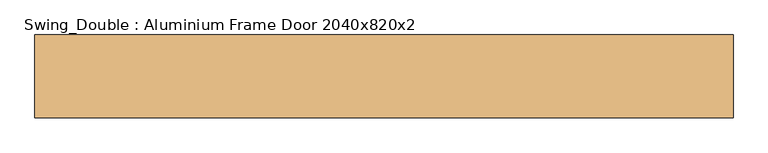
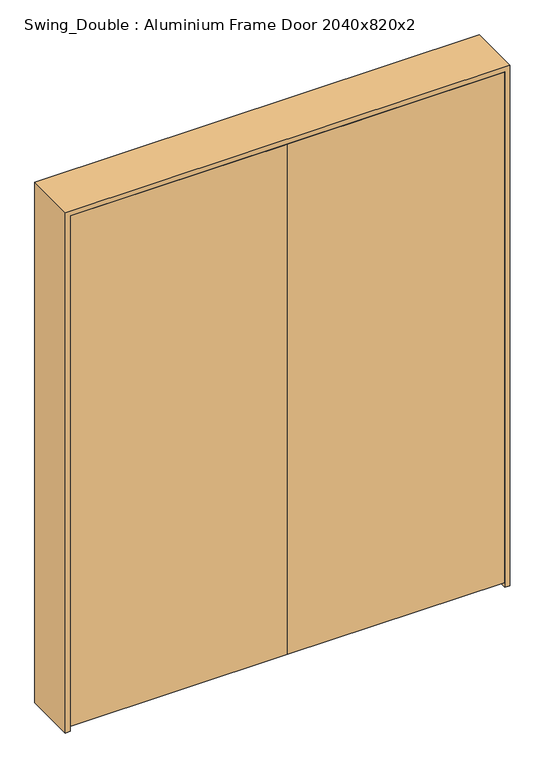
"""IFC4 building model written with IfcOpenShell, lengths in millimetres: door geometry, Swing_Double : Aluminium Frame Door 2040x820x2."""

from ifc_helpers import new_model, si_unit, frame, origin, place, context, project, spatial, polyline, outline, extrude, faceted_brep, source, transform, mapped, element, save


def swing_double_aluminium_frame_door_2040x820x2_ba6f0609(model_context):
    return source(origin(), model_context, "Body", "SolidModel", [
        extrude(outline(polyline([(-211.5, -100.0), (-211.5, -60.0), (608.5, -60.0), (608.5, -100.0), (-211.5, -100.0)])), frame((0.0, 0.0, 20.0), z_axis=(0.0, 0.0, 1.0), x_axis=(1.0, 0.0, 0.0)), (0.0, 0.0, 1.0), 2040.0),
        extrude(outline(polyline([(-211.5, -100.0), (-1031.5, -100.0), (-1031.5, -60.0), (-211.5, -60.0), (-211.5, -100.0)])), frame((0.0, 0.0, 20.0), z_axis=(0.0, 0.0, 1.0), x_axis=(1.0, 0.0, 0.0)), (0.0, 0.0, 1.0), 2040.0),
        faceted_brep([(629.5, 100.0, 0.0), (629.5, -100.0, 0.0), (610.5, -100.0, 0.0), (610.5, -58.0, 0.0), (590.5, -58.0, 0.0), (590.5, 100.0, 0.0), (590.5, 100.0, 2042.0), (-1013.5, 100.0, 2042.0), (-1013.5, 100.0, 0.0), (-1052.5, 100.0, 0.0), (-1052.5, 100.0, 2081.0), (629.5, 100.0, 2081.0), (590.5, -58.0, 2042.0), (610.5, -58.0, 2062.0), (-1033.5, -58.0, 2062.0), (-1033.5, -58.0, 0.0), (-1013.5, -58.0, 0.0), (-1013.5, -58.0, 2042.0), (610.5, -100.0, 2062.0), (629.5, -100.0, 2081.0), (-1052.5, -100.0, 2081.0), (-1052.5, -100.0, 0.0), (-1033.5, -100.0, 0.0), (-1033.5, -100.0, 2062.0)], [[[0, 1, 2, 3, 4, 5]], [[5, 6, 7, 8, 9, 10, 11, 0]], [[4, 12, 6, 5]], [[3, 13, 14, 15, 16, 17, 12, 4]], [[2, 18, 13, 3]], [[1, 19, 20, 21, 22, 23, 18, 2]], [[0, 11, 19, 1]], [[23, 22, 15, 14]], [[9, 8, 16, 15, 22, 21]], [[10, 9, 21, 20]], [[17, 16, 8, 7]], [[11, 10, 20, 19]], [[18, 23, 14, 13]], [[12, 17, 7, 6]]]),
    ])


if __name__ == "__main__":
    model = new_model("IFC4")
    model_context = context("Model", 3, world=origin())
    ifc_project = project(units=[si_unit("LENGTHUNIT", "METRE", prefix="MILLI")], contexts=[model_context])
    site = spatial("IfcSite", under=ifc_project)
    building = spatial("IfcBuilding", under=site)
    placement = place(None, origin())
    swing_double_aluminium_frame_door_2040x820x2_shape = swing_double_aluminium_frame_door_2040x820x2_ba6f0609(model_context)
    element("IfcDoor", 1, ObjectType="Swing_Double : Aluminium Frame Door 2040x820x2", at=placement, inside=building, context=model_context, shape_type="MappedRepresentation", body=[
        mapped(swing_double_aluminium_frame_door_2040x820x2_shape, transform((0.0, 0.0, 0.0), x_axis=(1.0, 0.0, 0.0), y_axis=(0.0, 1.0, 0.0), z_axis=(0.0, 0.0, 1.0))),
    ])
    save(model, "model.ifc")
